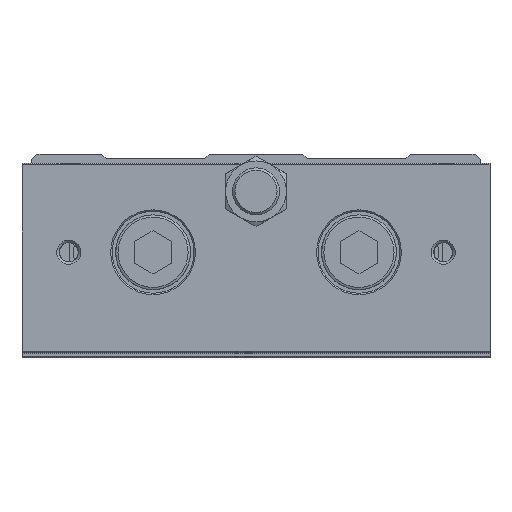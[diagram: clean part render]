
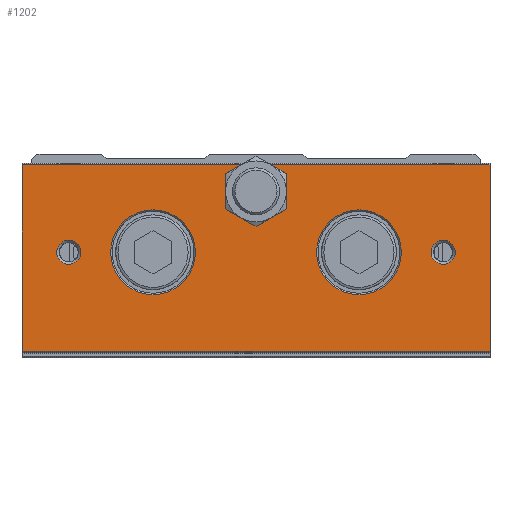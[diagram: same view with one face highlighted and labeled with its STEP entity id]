
A CAD part, top view. The second image highlights one B-rep face of the part: STEP entity #1202.
In plain terms, the highlighted planar face has unit normal (0, 0, 1).
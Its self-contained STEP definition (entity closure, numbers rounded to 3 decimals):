
#1044=CARTESIAN_POINT('',(42.567,-0.75,337.5));
#1045=VERTEX_POINT('',#1044);
#1046=CARTESIAN_POINT('',(40.0,-0.75,337.5));
#1047=DIRECTION('',(0.0,0.0,1.0));
#1048=DIRECTION('',(-1.0,0.0,0.0));
#1049=AXIS2_PLACEMENT_3D('',#1046,#1047,#1048);
#1050=CIRCLE('',#1049,2.567);
#1051=EDGE_CURVE('',#1045,#1045,#1050,.T.);
#1056=CARTESIAN_POINT('',(0.0,-22.25,337.5));
#1057=DIRECTION('',(0.0,0.0,1.0));
#1058=DIRECTION('',(1.0,0.0,0.0));
#1059=AXIS2_PLACEMENT_3D('',#1056,#1057,#1058);
#1060=PLANE('',#1059);
#1061=CARTESIAN_POINT('',(50.0,-21.95,337.5));
#1062=VERTEX_POINT('',#1061);
#1063=CARTESIAN_POINT('',(-50.0,-21.95,337.5));
#1064=VERTEX_POINT('',#1063);
#1065=CARTESIAN_POINT('',(50.0,-21.95,337.5));
#1066=DIRECTION('',(-1.0,0.0,0.0));
#1067=VECTOR('',#1066,100.0);
#1068=LINE('',#1065,#1067);
#1069=EDGE_CURVE('',#1062,#1064,#1068,.T.);
#1070=ORIENTED_EDGE('',*,*,#1069,.F.);
#1071=CARTESIAN_POINT('',(50.0,17.95,337.5));
#1072=VERTEX_POINT('',#1071);
#1073=CARTESIAN_POINT('',(50.0,-21.95,337.5));
#1074=DIRECTION('',(0.0,1.0,0.0));
#1075=VECTOR('',#1074,39.9);
#1076=LINE('',#1073,#1075);
#1077=EDGE_CURVE('',#1062,#1072,#1076,.T.);
#1078=ORIENTED_EDGE('',*,*,#1077,.T.);
#1079=CARTESIAN_POINT('',(3.124,17.95,337.5));
#1080=VERTEX_POINT('',#1079);
#1081=CARTESIAN_POINT('',(3.124,17.95,337.5));
#1082=DIRECTION('',(1.0,0.0,0.0));
#1083=VECTOR('',#1082,46.876);
#1084=LINE('',#1081,#1083);
#1085=EDGE_CURVE('',#1080,#1072,#1084,.T.);
#1086=ORIENTED_EDGE('',*,*,#1085,.F.);
#1087=CARTESIAN_POINT('',(3.25,17.879,337.5));
#1088=VERTEX_POINT('',#1087);
#1089=CARTESIAN_POINT('',(0.0,12.25,337.5));
#1090=DIRECTION('',(0.0,0.0,1.0));
#1091=DIRECTION('',(0.0,1.0,0.0));
#1092=AXIS2_PLACEMENT_3D('',#1089,#1090,#1091);
#1093=CIRCLE('',#1092,6.5);
#1094=EDGE_CURVE('',#1088,#1080,#1093,.T.);
#1095=ORIENTED_EDGE('',*,*,#1094,.F.);
#1096=CARTESIAN_POINT('',(6.5,12.25,337.5));
#1097=VERTEX_POINT('',#1096);
#1098=CARTESIAN_POINT('',(0.0,12.25,337.5));
#1099=DIRECTION('',(0.0,0.0,1.0));
#1100=DIRECTION('',(0.0,1.0,0.0));
#1101=AXIS2_PLACEMENT_3D('',#1098,#1099,#1100);
#1102=CIRCLE('',#1101,6.5);
#1103=EDGE_CURVE('',#1097,#1088,#1102,.T.);
#1104=ORIENTED_EDGE('',*,*,#1103,.F.);
#1105=CARTESIAN_POINT('',(3.25,6.621,337.5));
#1106=VERTEX_POINT('',#1105);
#1107=CARTESIAN_POINT('',(0.0,12.25,337.5));
#1108=DIRECTION('',(0.0,0.0,1.0));
#1109=DIRECTION('',(0.0,1.0,0.0));
#1110=AXIS2_PLACEMENT_3D('',#1107,#1108,#1109);
#1111=CIRCLE('',#1110,6.5);
#1112=EDGE_CURVE('',#1106,#1097,#1111,.T.);
#1113=ORIENTED_EDGE('',*,*,#1112,.F.);
#1114=CARTESIAN_POINT('',(-3.25,6.621,337.5));
#1115=VERTEX_POINT('',#1114);
#1116=CARTESIAN_POINT('',(0.0,12.25,337.5));
#1117=DIRECTION('',(0.0,0.0,1.0));
#1118=DIRECTION('',(0.0,1.0,0.0));
#1119=AXIS2_PLACEMENT_3D('',#1116,#1117,#1118);
#1120=CIRCLE('',#1119,6.5);
#1121=EDGE_CURVE('',#1115,#1106,#1120,.T.);
#1122=ORIENTED_EDGE('',*,*,#1121,.F.);
#1123=CARTESIAN_POINT('',(-6.5,12.25,337.5));
#1124=VERTEX_POINT('',#1123);
#1125=CARTESIAN_POINT('',(0.0,12.25,337.5));
#1126=DIRECTION('',(0.0,0.0,1.0));
#1127=DIRECTION('',(0.0,1.0,0.0));
#1128=AXIS2_PLACEMENT_3D('',#1125,#1126,#1127);
#1129=CIRCLE('',#1128,6.5);
#1130=EDGE_CURVE('',#1124,#1115,#1129,.T.);
#1131=ORIENTED_EDGE('',*,*,#1130,.F.);
#1132=CARTESIAN_POINT('',(-3.25,17.879,337.5));
#1133=VERTEX_POINT('',#1132);
#1134=CARTESIAN_POINT('',(0.0,12.25,337.5));
#1135=DIRECTION('',(0.0,0.0,1.0));
#1136=DIRECTION('',(0.0,1.0,0.0));
#1137=AXIS2_PLACEMENT_3D('',#1134,#1135,#1136);
#1138=CIRCLE('',#1137,6.5);
#1139=EDGE_CURVE('',#1133,#1124,#1138,.T.);
#1140=ORIENTED_EDGE('',*,*,#1139,.F.);
#1141=CARTESIAN_POINT('',(-3.124,17.95,337.5));
#1142=VERTEX_POINT('',#1141);
#1143=CARTESIAN_POINT('',(0.0,12.25,337.5));
#1144=DIRECTION('',(0.0,0.0,1.0));
#1145=DIRECTION('',(0.0,1.0,0.0));
#1146=AXIS2_PLACEMENT_3D('',#1143,#1144,#1145);
#1147=CIRCLE('',#1146,6.5);
#1148=EDGE_CURVE('',#1142,#1133,#1147,.T.);
#1149=ORIENTED_EDGE('',*,*,#1148,.F.);
#1150=CARTESIAN_POINT('',(-50.0,17.95,337.5));
#1151=VERTEX_POINT('',#1150);
#1152=CARTESIAN_POINT('',(-50.0,17.95,337.5));
#1153=DIRECTION('',(1.0,0.0,0.0));
#1154=VECTOR('',#1153,46.876);
#1155=LINE('',#1152,#1154);
#1156=EDGE_CURVE('',#1151,#1142,#1155,.T.);
#1157=ORIENTED_EDGE('',*,*,#1156,.F.);
#1158=CARTESIAN_POINT('',(-50.0,17.95,337.5));
#1159=DIRECTION('',(0.0,-1.0,0.0));
#1160=VECTOR('',#1159,39.9);
#1161=LINE('',#1158,#1160);
#1162=EDGE_CURVE('',#1151,#1064,#1161,.T.);
#1163=ORIENTED_EDGE('',*,*,#1162,.T.);
#1164=EDGE_LOOP('',(#1070,#1078,#1086,#1095,#1104,#1113,#1122,#1131,#1140,#1149,#1157,#1163));
#1165=FACE_OUTER_BOUND('',#1164,.T.);
#1166=CARTESIAN_POINT('',(-37.433,-0.75,337.5));
#1167=VERTEX_POINT('',#1166);
#1168=CARTESIAN_POINT('',(-40.0,-0.75,337.5));
#1169=DIRECTION('',(0.0,0.0,1.0));
#1170=DIRECTION('',(-1.0,0.0,0.0));
#1171=AXIS2_PLACEMENT_3D('',#1168,#1169,#1170);
#1172=CIRCLE('',#1171,2.567);
#1173=EDGE_CURVE('',#1167,#1167,#1172,.T.);
#1174=ORIENTED_EDGE('',*,*,#1173,.F.);
#1175=EDGE_LOOP('',(#1174));
#1176=FACE_BOUND('',#1175,.T.);
#1177=CARTESIAN_POINT('',(-12.95,-0.75,337.5));
#1178=VERTEX_POINT('',#1177);
#1179=CARTESIAN_POINT('',(-22.0,-0.75,337.5));
#1180=DIRECTION('',(0.0,0.0,1.0));
#1181=DIRECTION('',(-1.0,0.0,0.0));
#1182=AXIS2_PLACEMENT_3D('',#1179,#1180,#1181);
#1183=CIRCLE('',#1182,9.05);
#1184=EDGE_CURVE('',#1178,#1178,#1183,.T.);
#1185=ORIENTED_EDGE('',*,*,#1184,.F.);
#1186=EDGE_LOOP('',(#1185));
#1187=FACE_BOUND('',#1186,.T.);
#1188=CARTESIAN_POINT('',(31.05,-0.75,337.5));
#1189=VERTEX_POINT('',#1188);
#1190=CARTESIAN_POINT('',(22.0,-0.75,337.5));
#1191=DIRECTION('',(0.0,0.0,1.0));
#1192=DIRECTION('',(-1.0,0.0,0.0));
#1193=AXIS2_PLACEMENT_3D('',#1190,#1191,#1192);
#1194=CIRCLE('',#1193,9.05);
#1195=EDGE_CURVE('',#1189,#1189,#1194,.T.);
#1196=ORIENTED_EDGE('',*,*,#1195,.F.);
#1197=EDGE_LOOP('',(#1196));
#1198=FACE_BOUND('',#1197,.T.);
#1199=ORIENTED_EDGE('',*,*,#1051,.F.);
#1200=EDGE_LOOP('',(#1199));
#1201=FACE_BOUND('',#1200,.T.);
#1202=ADVANCED_FACE('',(#1165,#1176,#1187,#1198,#1201),#1060,.T.);
